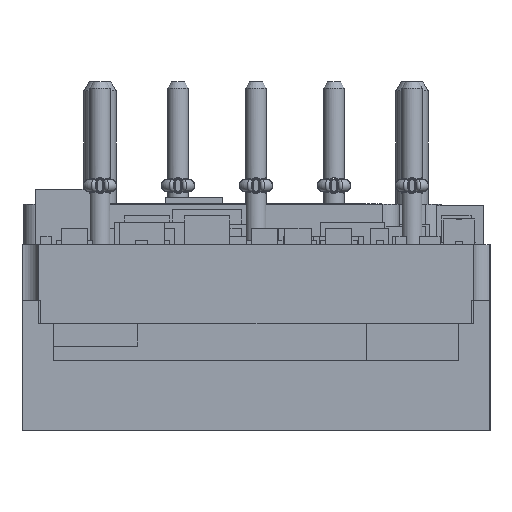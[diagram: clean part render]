
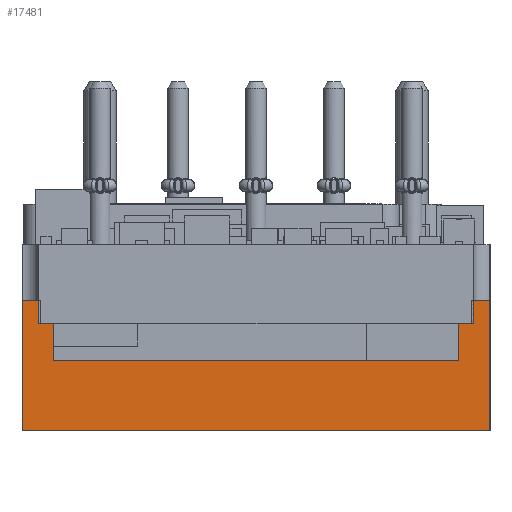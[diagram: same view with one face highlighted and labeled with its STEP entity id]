
A CAD part, left-side view. The second image highlights one B-rep face of the part: STEP entity #17481.
In plain terms, the highlighted planar face has unit normal (-1, 0, 0).
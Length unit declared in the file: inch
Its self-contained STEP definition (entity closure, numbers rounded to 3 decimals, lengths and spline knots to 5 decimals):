
#611 = EDGE_CURVE ( 'NONE', #14079, #91941, #30785, .T. ) ;
#1876 = LINE ( 'NONE', #32301, #39211 ) ;
#1883 = VECTOR ( 'NONE', #76895, 39.37008 ) ;
#2051 = DIRECTION ( 'NONE',  ( 0., -1., 0. ) ) ;
#2898 = VERTEX_POINT ( 'NONE', #20924 ) ;
#3076 = PLANE ( 'NONE',  #13418 ) ;
#6817 = CARTESIAN_POINT ( 'NONE',  ( 0., 0.035, 0. ) ) ;
#8322 = CARTESIAN_POINT ( 'NONE',  ( 0., 0.865, 0.045 ) ) ;
#9795 = LINE ( 'NONE', #85384, #49480 ) ;
#9812 = LINE ( 'NONE', #59439, #86784 ) ;
#10542 = VECTOR ( 'NONE', #81935, 39.37008 ) ;
#12187 = EDGE_CURVE ( 'NONE', #93807, #2898, #61401, .T. ) ;
#12192 = DIRECTION ( 'NONE',  ( 0., 0., 1. ) ) ;
#12746 = ORIENTED_EDGE ( 'NONE', *, *, #18015, .T. ) ;
#13319 = ORIENTED_EDGE ( 'NONE', *, *, #611, .F. ) ;
#13418 = AXIS2_PLACEMENT_3D ( 'NONE', #85247, #40582, #92649 ) ;
#14079 = VERTEX_POINT ( 'NONE', #43443 ) ;
#14790 = CARTESIAN_POINT ( 'NONE',  ( 0., 0.9, -0.205 ) ) ;
#14814 = ORIENTED_EDGE ( 'NONE', *, *, #43218, .F. ) ;
#17015 = ORIENTED_EDGE ( 'NONE', *, *, #80113, .T. ) ;
#17481 = ADVANCED_FACE ( 'NONE', ( #70368 ), #3076, .T. ) ;
#18015 = EDGE_CURVE ( 'NONE', #93807, #43686, #21139, .T. ) ;
#18489 = DIRECTION ( 'NONE',  ( 0., -1., 0. ) ) ;
#18782 = CARTESIAN_POINT ( 'NONE',  ( 0., 0.06, -0.07131 ) ) ;
#19667 = CARTESIAN_POINT ( 'NONE',  ( 0., 0.035, 0.045 ) ) ;
#20924 = CARTESIAN_POINT ( 'NONE',  ( 0., 0., 0.045 ) ) ;
#21139 = LINE ( 'NONE', #48642, #23475 ) ;
#22093 = VERTEX_POINT ( 'NONE', #8322 ) ;
#22220 = EDGE_CURVE ( 'NONE', #22585, #2898, #95653, .T. ) ;
#22585 = VERTEX_POINT ( 'NONE', #27707 ) ;
#23475 = VECTOR ( 'NONE', #56116, 39.37008 ) ;
#25753 = EDGE_CURVE ( 'NONE', #26527, #43686, #9795, .T. ) ;
#26527 = VERTEX_POINT ( 'NONE', #43623 ) ;
#27037 = CARTESIAN_POINT ( 'NONE',  ( 0., 0.06, -0.99328 ) ) ;
#27707 = CARTESIAN_POINT ( 'NONE',  ( 0., 0., -0.205 ) ) ;
#28425 = CARTESIAN_POINT ( 'NONE',  ( 0., 0.84, 0. ) ) ;
#29750 = DIRECTION ( 'NONE',  ( 0., -1., 0. ) ) ;
#30785 = LINE ( 'NONE', #91327, #48312 ) ;
#32301 = CARTESIAN_POINT ( 'NONE',  ( 0., 0.84, -0.99328 ) ) ;
#35356 = LINE ( 'NONE', #27037, #55210 ) ;
#35423 = CARTESIAN_POINT ( 'NONE',  ( 0., 0.865, 0.045 ) ) ;
#35578 = ORIENTED_EDGE ( 'NONE', *, *, #48738, .F. ) ;
#36570 = ORIENTED_EDGE ( 'NONE', *, *, #25753, .F. ) ;
#37761 = LINE ( 'NONE', #35423, #77389 ) ;
#38577 = ORIENTED_EDGE ( 'NONE', *, *, #75253, .F. ) ;
#39211 = VECTOR ( 'NONE', #39813, 39.37008 ) ;
#39813 = DIRECTION ( 'NONE',  ( 0., 0., 1. ) ) ;
#40582 = DIRECTION ( 'NONE',  ( -1., 0., 0. ) ) ;
#41755 = DIRECTION ( 'NONE',  ( 0., -1., 0. ) ) ;
#42051 = EDGE_CURVE ( 'NONE', #56395, #91941, #1876, .T. ) ;
#42359 = VECTOR ( 'NONE', #41755, 39.37008 ) ;
#43218 = EDGE_CURVE ( 'NONE', #92943, #50542, #70028, .T. ) ;
#43443 = CARTESIAN_POINT ( 'NONE',  ( 0., 0.865, 0. ) ) ;
#43623 = CARTESIAN_POINT ( 'NONE',  ( 0., 0.06, 0. ) ) ;
#43686 = VERTEX_POINT ( 'NONE', #6817 ) ;
#44000 = VERTEX_POINT ( 'NONE', #18782 ) ;
#48312 = VECTOR ( 'NONE', #2051, 39.37008 ) ;
#48642 = CARTESIAN_POINT ( 'NONE',  ( 0., 0.035, 0.045 ) ) ;
#48738 = EDGE_CURVE ( 'NONE', #50542, #22093, #75419, .T. ) ;
#49480 = VECTOR ( 'NONE', #18489, 39.37008 ) ;
#50542 = VERTEX_POINT ( 'NONE', #66294 ) ;
#50811 = ORIENTED_EDGE ( 'NONE', *, *, #12187, .F. ) ;
#54553 = EDGE_CURVE ( 'NONE', #22093, #14079, #37761, .T. ) ;
#55210 = VECTOR ( 'NONE', #86683, 39.37008 ) ;
#56116 = DIRECTION ( 'NONE',  ( 0., 0., -1. ) ) ;
#56395 = VERTEX_POINT ( 'NONE', #60640 ) ;
#57124 = ORIENTED_EDGE ( 'NONE', *, *, #54553, .F. ) ;
#57875 = EDGE_CURVE ( 'NONE', #56395, #44000, #62179, .T. ) ;
#59439 = CARTESIAN_POINT ( 'NONE',  ( 0., 0., -0.205 ) ) ;
#60640 = CARTESIAN_POINT ( 'NONE',  ( 0., 0.84, -0.07131 ) ) ;
#61401 = LINE ( 'NONE', #69410, #1883 ) ;
#62179 = LINE ( 'NONE', #71401, #42359 ) ;
#63421 = DIRECTION ( 'NONE',  ( 0., -1., 0. ) ) ;
#66229 = ORIENTED_EDGE ( 'NONE', *, *, #42051, .T. ) ;
#66294 = CARTESIAN_POINT ( 'NONE',  ( 0., 0.9, 0.045 ) ) ;
#69410 = CARTESIAN_POINT ( 'NONE',  ( 0., 0., 0.045 ) ) ;
#70028 = LINE ( 'NONE', #74387, #10542 ) ;
#70368 = FACE_OUTER_BOUND ( 'NONE', #83335, .T. ) ;
#71401 = CARTESIAN_POINT ( 'NONE',  ( 0., 0.06, -0.07131 ) ) ;
#71848 = CARTESIAN_POINT ( 'NONE',  ( 0., 0., -0.205 ) ) ;
#74387 = CARTESIAN_POINT ( 'NONE',  ( 0., 0.9, -0.205 ) ) ;
#75253 = EDGE_CURVE ( 'NONE', #44000, #26527, #35356, .T. ) ;
#75419 = LINE ( 'NONE', #93023, #95183 ) ;
#75863 = VECTOR ( 'NONE', #12192, 39.37008 ) ;
#76895 = DIRECTION ( 'NONE',  ( 0., -1., 0. ) ) ;
#77389 = VECTOR ( 'NONE', #87608, 39.37008 ) ;
#80113 = EDGE_CURVE ( 'NONE', #92943, #22585, #9812, .T. ) ;
#81935 = DIRECTION ( 'NONE',  ( 0., 0., 1. ) ) ;
#83335 = EDGE_LOOP ( 'NONE', ( #38577, #95716, #66229, #13319, #57124, #35578, #14814, #17015, #94196, #50811, #12746, #36570 ) ) ;
#85247 = CARTESIAN_POINT ( 'NONE',  ( 0., 0., -0.205 ) ) ;
#85384 = CARTESIAN_POINT ( 'NONE',  ( 0., 0., 0. ) ) ;
#86683 = DIRECTION ( 'NONE',  ( 0., 0., 1. ) ) ;
#86784 = VECTOR ( 'NONE', #29750, 39.37008 ) ;
#87608 = DIRECTION ( 'NONE',  ( 0., 0., -1. ) ) ;
#91327 = CARTESIAN_POINT ( 'NONE',  ( 0., 0., 0. ) ) ;
#91941 = VERTEX_POINT ( 'NONE', #28425 ) ;
#92649 = DIRECTION ( 'NONE',  ( 0., 0., 1. ) ) ;
#92943 = VERTEX_POINT ( 'NONE', #14790 ) ;
#93023 = CARTESIAN_POINT ( 'NONE',  ( 0., 0.9, 0.045 ) ) ;
#93807 = VERTEX_POINT ( 'NONE', #19667 ) ;
#94196 = ORIENTED_EDGE ( 'NONE', *, *, #22220, .T. ) ;
#95183 = VECTOR ( 'NONE', #63421, 39.37008 ) ;
#95653 = LINE ( 'NONE', #71848, #75863 ) ;
#95716 = ORIENTED_EDGE ( 'NONE', *, *, #57875, .F. ) ;
